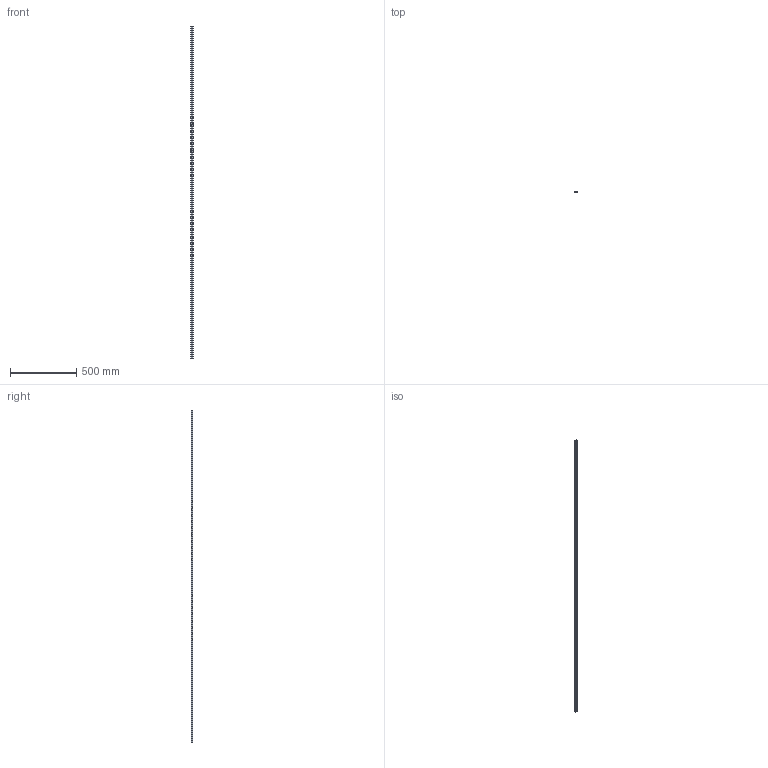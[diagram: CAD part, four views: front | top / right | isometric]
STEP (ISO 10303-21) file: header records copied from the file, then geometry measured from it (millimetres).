
FILE_DESCRIPTION (( 'STEP AP203' ), '1' );
FILE_NAME ('ChannelLine_G_24.STEP', '2024-11-29T05:36:03', ( '' ), ( '' ), 'SwSTEP 2.0', 'SolidWorks 2023', '' );
FILE_SCHEMA (( 'CONFIG_CONTROL_DESIGN' ));
Length unit declared in the file: millimetre
Products named in the file (3): ChannelLine_G_24; 2579097_2500; 2555197_2500
Assembly tree (2 placements, depth 2):
  ChannelLine_G_24
    2555197_2500
    2579097_2500
Bounding box: 22 x 10 x 2500 mm (x, y, z)
Volume: 243666.7 mm3; surface area: 368127.7 mm2
Topology: 2 solids, 2 shells, 101 faces, 291 edges, 194 vertices
Faces by surface type: cylinder 58, plane 43
Entity records: 3666 total; most frequent: DIRECTION 619, CARTESIAN_POINT 591, ORIENTED_EDGE 582, EDGE_CURVE 291, AXIS2_PLACEMENT_3D 222, VERTEX_POINT 194, VECTOR 175, LINE 175
